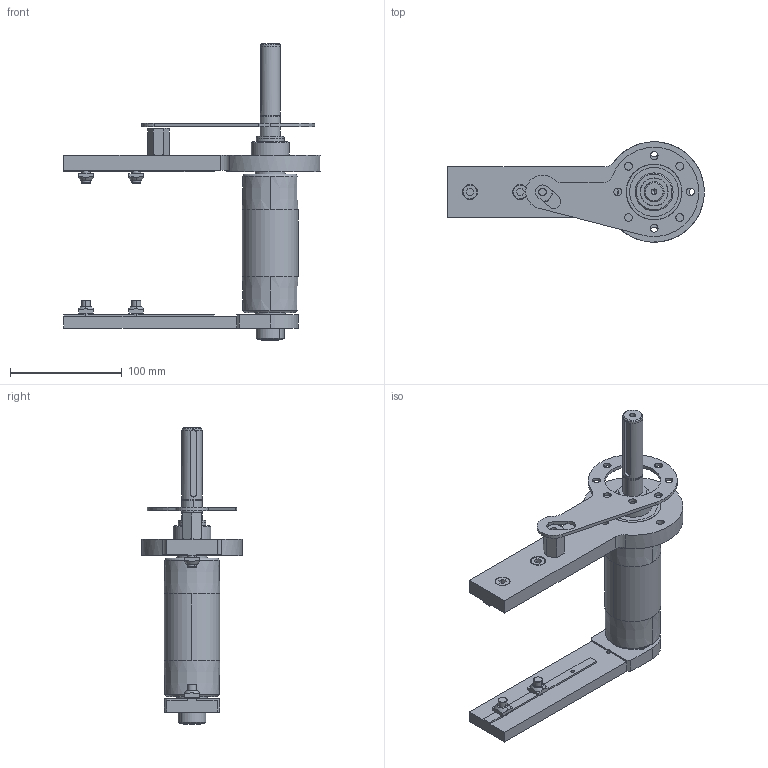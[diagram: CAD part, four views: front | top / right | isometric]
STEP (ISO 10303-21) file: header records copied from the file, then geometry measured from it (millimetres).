
FILE_DESCRIPTION (( 'STEP AP203' ), '1' );
FILE_NAME ('084.050.KD.44.100.STEP', '2019-07-29T10:08:11', ( '' ), ( '' ), 'SwSTEP 2.0', 'SolidWorks 2018', '' );
FILE_SCHEMA (( 'CONFIG_CONTROL_DESIGN' ));
Length unit declared in the file: millimetre
Products named in the file (13): 084.802.027; 084.811.004; 084.807.001_084.807.001; 084.815.101_Default<A macchina>; 084.302.000 DADI ALUSIC 13x13_084.302.004; 084.802.034_084.802.034; 084.811.002; 084.802.017_084.802.017; 084.807.005; 084.810.001; 084.807.002_084.807.002; 084.050.KD.44.100; 084.301.000 VITI ALUSIC_084.301.003
Assembly tree (19 placements, depth 2):
  084.050.KD.44.100
    084.807.002_084.807.002
    084.802.017_084.802.017
    084.811.004
    084.815.101_Default<A macchina>
    084.810.001  x2
    084.301.000 VITI ALUSIC_084.301.003  x4
    084.302.000 DADI ALUSIC 13x13_084.302.004  x4
    084.802.027
    084.807.005
    084.807.001_084.807.001
    084.802.034_084.802.034
    084.811.002
Bounding box: 230 x 90 x 266 mm (x, y, z)
Volume: 452208.1 mm3; surface area: 195842.8 mm2
Topology: 24 solids, 25 shells, 620 faces, 1557 edges, 1008 vertices
Faces by surface type: plane 252, cylinder 231, torus 68, cone 60, sphere 9
Entity records: 16465 total; most frequent: CARTESIAN_POINT 2976, DIRECTION 2712, ORIENTED_EDGE 2362, EDGE_CURVE 1181, AXIS2_PLACEMENT_3D 1095, VERTEX_POINT 765, CIRCLE 603, EDGE_LOOP 568
